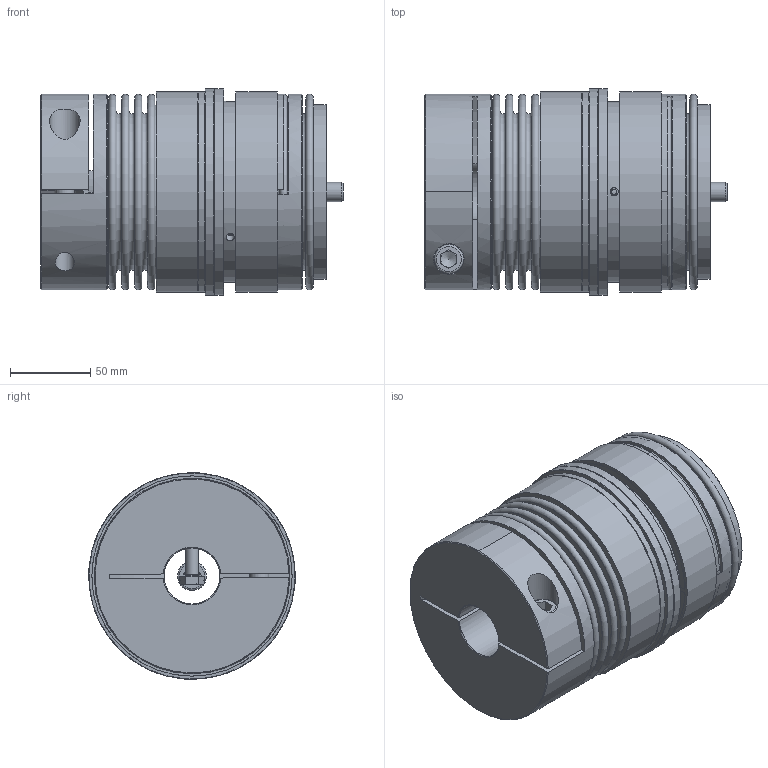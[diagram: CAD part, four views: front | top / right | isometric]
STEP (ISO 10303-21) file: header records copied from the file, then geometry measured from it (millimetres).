
FILE_DESCRIPTION( ( 'Unknown' ), '1' );
FILE_NAME( 'C:/Dokumente und Einstellungen/SKarpstein/Desktop/Korrigierte 3D Modelle/KBK-BKI-500-140.stp', 'Unknown', ( 'Unknown' ), ( 'Unknown' ), 'XStep 1.0', 'Unknown', ' ' );
FILE_SCHEMA( ( 'automotive_design' ) );
Length unit declared in the file: millimetre
Products named in the file (10): Assem1; Stellring 500; Druckring 500; KBK L-I-500 Grundkörper; Konusbuchse 500; din_en_24017_m8x30_1; Flansch BK500; KN500_Standard_4; Socket Head Cap Screw_DIN_DIN 912 M12 x 55 --- 55N_4; BK500_Standard_0
Bounding box: 188.65 x 129 x 129 mm (x, y, z)
Volume: 1911747.6 mm3; surface area: 563976.9 mm2
Topology: 23 solids, 23 shells, 540 faces, 1140 edges, 735 vertices
Faces by surface type: plane 249, cylinder 126, cone 122, torus 43
Full cylindrical faces by diameter (mm): 3.242 x6, 5.1 x6, 5.2 x6, 6.647 x18, 8 x7, 9 x12, 11.63 x7, 12 x4, 12.5 x2, 18 x2, 19 x2, 35 x6, 62 x2, 62.6 x2, 65 x4, 80 x2, 86 x4, 89 x2, 90 x2, 104.5 x2, 107.7 x4, 108.9 x4, 113 x2, 114 x2, 122 x2, 125 x4, 129 x2
Entity records: 6154 total; most frequent: CARTESIAN_POINT 1432, DIRECTION 945, ORIENTED_EDGE 642, AXIS2_PLACEMENT_3D 431, EDGE_LOOP 390, EDGE_CURVE 321, FACE_OUTER_BOUND 286, VERTEX_POINT 262
